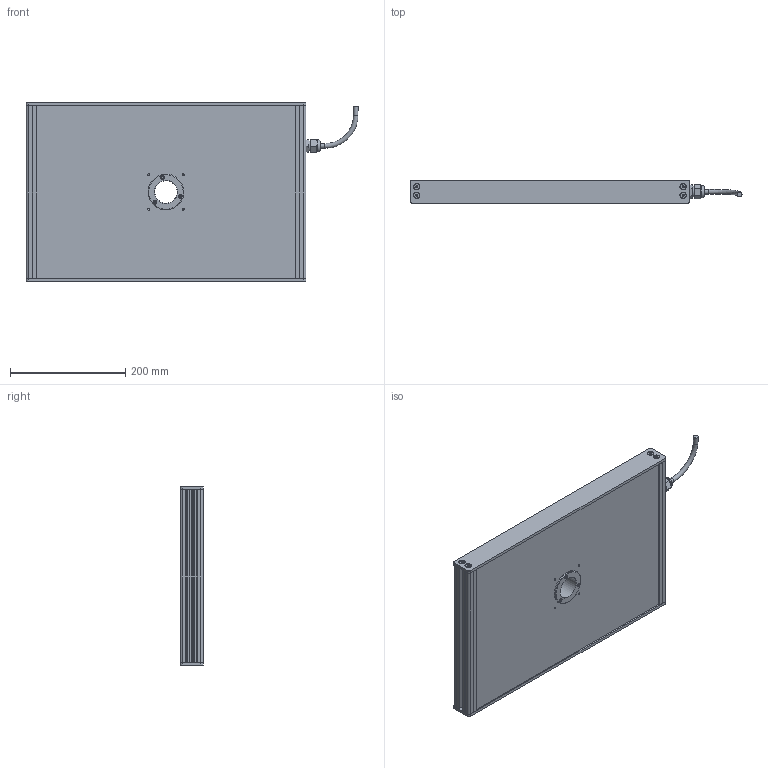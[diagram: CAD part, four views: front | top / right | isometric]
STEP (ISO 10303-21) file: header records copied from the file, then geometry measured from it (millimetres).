
FILE_DESCRIPTION (( 'STEP AP214' ), '1' );
FILE_NAME ('EFFI-FD-300-450T-M12P Ø39.STEP', '2023-06-23T11:14:38', ( '' ), ( '' ), 'SwSTEP 2.0', 'SolidWorks 2022', '' );
FILE_SCHEMA (( 'AUTOMOTIVE_DESIGN' ));
Length unit declared in the file: millimetre
Products named in the file (10): 003776; bord fin modif_lg 436.5 mm; EFFI-FD-300-450T-M12P Ø39; profile modif_lg 99.5 mm; 001036; assemblage Ø39; M12 power; Pièce2^EFFI-FD-XXX-YYYT-M12P Ø39; 001035
Assembly tree (17 placements, depth 3):
  EFFI-FD-300-450T-M12P Ø39
    bord fin modif_lg 436.5 mm  x2
    profile modif_lg 99.5 mm
    Pièce2^EFFI-FD-XXX-YYYT-M12P Ø39
    profile modif_lg 99.5 mm
    M12 power
    003776  x8
    assemblage Ø39
      001036
      001035
Bounding box: 576.45 x 41 x 310 mm (x, y, z)
Volume: 5181857.5 mm3; surface area: 528908.1 mm2
Topology: 15 solids, 18 shells, 530 faces, 1335 edges, 877 vertices
Faces by surface type: plane 340, bspline 85, cylinder 84, cone 16, torus 5
Full cylindrical faces by diameter (mm): 3.2 x3, 3.3 x4, 5 x8, 5.5 x8, 6.5 x3, 8.1 x2, 10 x8, 11.1 x1, 16 x2, 18.5 x1, 21 x1, 39 x2, 41 x1, 41.2 x1, 42 x2, 43.4 x1, 44.6 x2, 54 x1, 62 x1
Entity records: 15340 total; most frequent: CARTESIAN_POINT 5027, ORIENTED_EDGE 1938, DIRECTION 1737, EDGE_CURVE 970, LINE 711, VECTOR 711, VERTEX_POINT 675, AXIS2_PLACEMENT_3D 513
